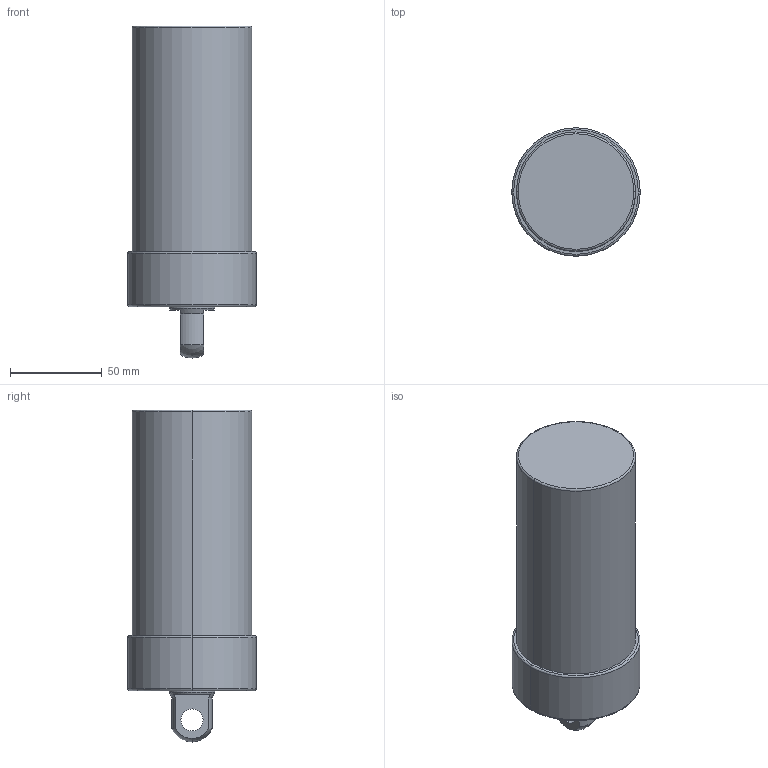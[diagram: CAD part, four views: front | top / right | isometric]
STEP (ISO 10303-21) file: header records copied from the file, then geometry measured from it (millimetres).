
FILE_DESCRIPTION (( 'STEP AP203' ), '1' );
FILE_NAME ('CLLU-065GP-090.STEP', '2020-01-08T00:32:03', ( '' ), ( '' ), 'SwSTEP 2.0', 'SolidWorks 2015', '' );
FILE_SCHEMA (( 'CONFIG_CONTROL_DESIGN' ));
Length unit declared in the file: millimetre
Products named in the file (1): CLLU-065GP-090
Bounding box: 70 x 70 x 181 mm (x, y, z)
Volume: 527690.6 mm3; surface area: 42073 mm2
Topology: 1 solids, 1 shells, 57 faces, 130 edges, 75 vertices
Faces by surface type: cylinder 22, cone 18, plane 9, torus 6, sphere 2
Entity records: 1643 total; most frequent: DIRECTION 308, CARTESIAN_POINT 267, ORIENTED_EDGE 244, AXIS2_PLACEMENT_3D 132, EDGE_CURVE 122, VERTEX_POINT 75, CIRCLE 74, EDGE_LOOP 67
